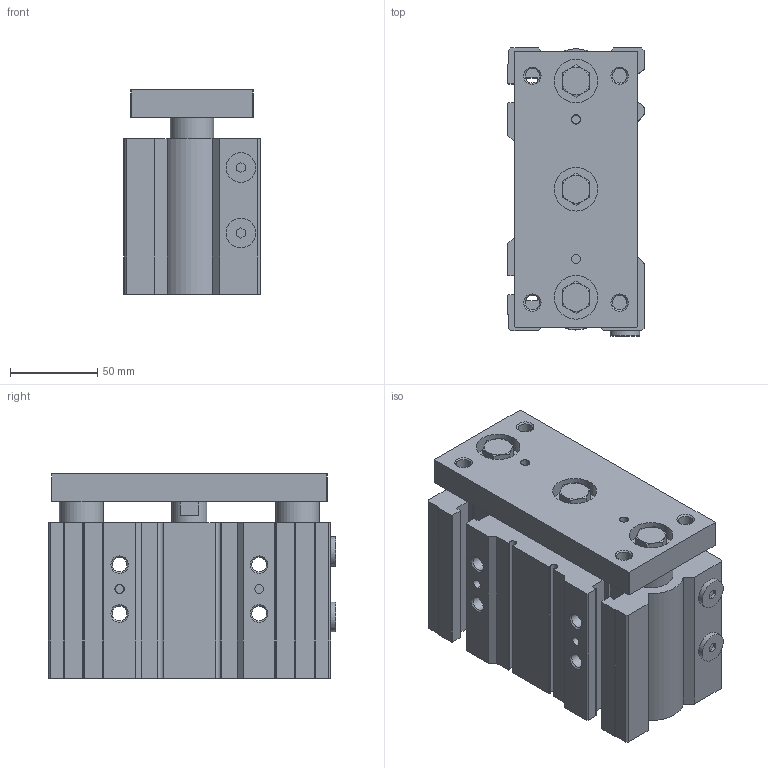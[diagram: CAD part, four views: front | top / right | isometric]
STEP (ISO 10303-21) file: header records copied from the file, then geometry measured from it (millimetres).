
FILE_DESCRIPTION( ( 'STEP AP214' ), '1' );
FILE_NAME( 'C:/Users/emc02044/Desktop/SGL SGM/SGM63X40-S.stp', '2026-07-24T01:50:17', ( 'License CC BY-ND 4.0' ), ( 'CADENAS' ), ' ', 'PARTsolutions', ' ' );
FILE_SCHEMA( ( 'AUTOMOTIVE_DESIGN { 1 0 10303 214 1 1 1 1 }' ) );
Length unit declared in the file: millimetre
Products named in the file (4): SGM63X40X0-S(); _SGM63x40-M(SG:Shaft cylinderM63X40X0-S:with magnet()dummy-0) 0; _SGM63x40-M(-0)-body; _SGM63x40-M(-0)-rod
Assembly tree (3 placements, depth 2):
  SGM63X40X0-S()
    _SGM63x40-M(SG:Shaft cylinderM63X40X0-S:with magnet()dummy-0) 0
    _SGM63x40-M(-0)-body
    _SGM63x40-M(-0)-rod
Bounding box: 78 x 165 x 117 mm (x, y, z)
Volume: 1009280.6 mm3; surface area: 189940.6 mm2
Topology: 2 solids, 4 shells, 349 faces, 851 edges, 548 vertices
Faces by surface type: plane 177, cylinder 114, cone 58
Full cylindrical faces by diameter (mm): 5 x6, 8.376 x12, 8.7 x4, 11.445 x4, 14 x4, 17 x2, 20 x2, 25 x7, 30 x2, 32.5 x2, 63 x3
Entity records: 12834 total; most frequent: CARTESIAN_POINT 1992, DIRECTION 1678, ORIENTED_EDGE 1540, EDGE_CURVE 770, AXIS2_PLACEMENT_3D 645, VERTEX_POINT 536, EDGE_LOOP 476, FACE_OUTER_BOUND 397
